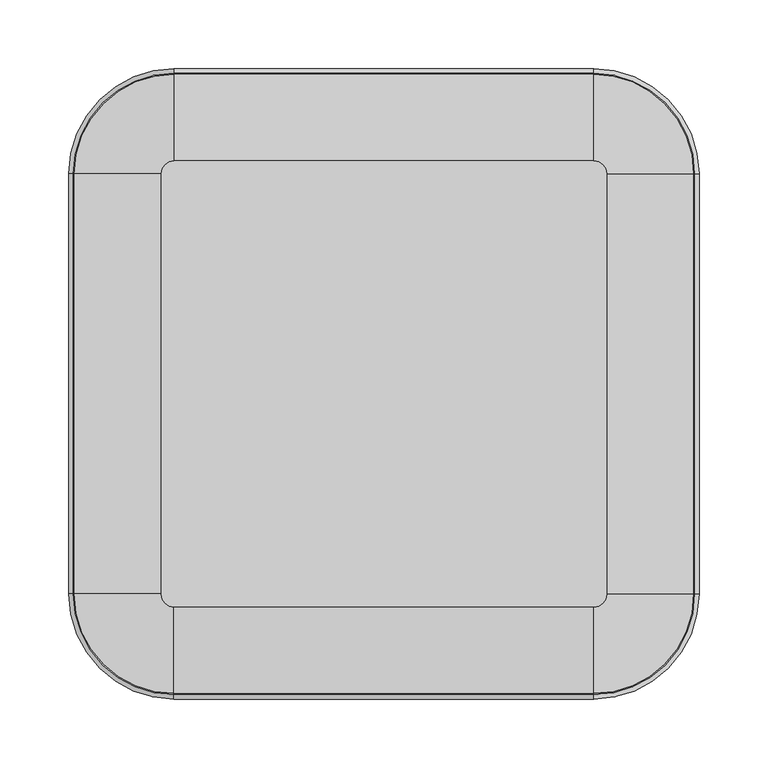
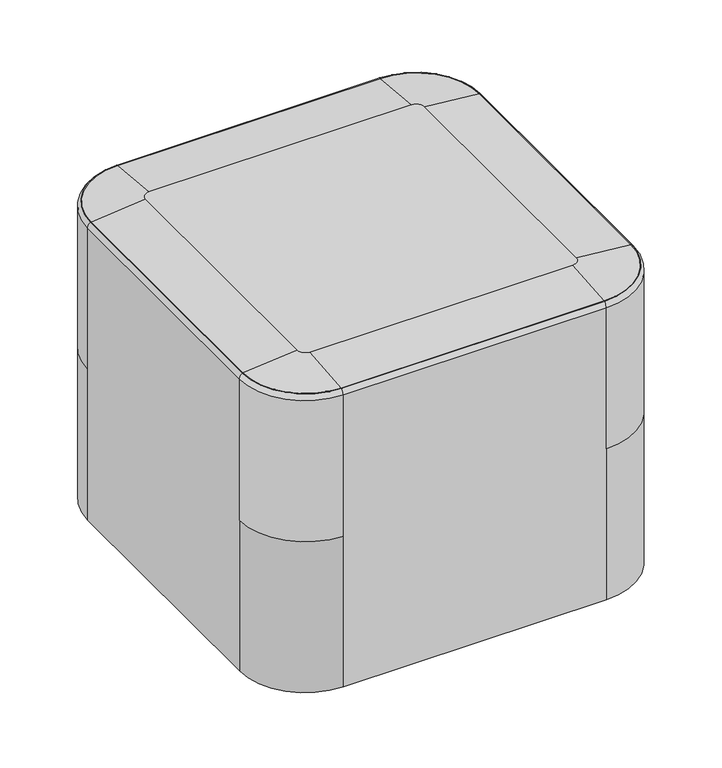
"""IFC4 building model written with IfcOpenShell, lengths in millimetres: furniture geometry, Indiana-Otty-Ottoman_Square : 840-1815SO."""

from ifc_helpers import new_model, si_unit, point, frame, origin, place, context, project, spatial, polyline, circle_curve, ellipse_curve, trimmed, source, transform, mapped, element, save
from ifc_brep_helpers import plane_surface, cylinder_surface, revolved_surface, advanced_brep


def furniture_ce7c7004(model_context):
    return source(origin(), model_context, "Body", "AdvancedBrep", [
        advanced_brep(
        [(174.625, -174.625, 19.8875), (174.625, -197.125, 19.8875), (174.625, -152.125, 19.8875), (174.625, -196.6765082, 4.2458827), (174.625, -152.5734918, 4.2458827), (174.625, -192.1913665, -0.1125), (174.625, -157.0586335, -0.1125), (174.625, -184.8926178, -0.1125), (174.625, -164.3573822, -0.1125), (174.625, -180.9981417, 3.9179615), (174.625, -168.2518583, 3.9179615), (174.625, -174.625, 3.9179615)],
        [
            (0, 1),
            (1, 2, circle_curve(frame((174.625, -174.625, 19.8875), z_axis=(0.0, 0.0, 1.0), x_axis=(0.0, -1.0, 0.0)), 22.5)),
            (2, 0),
            (2, 1, circle_curve(frame((174.625, -174.625, 19.8875), z_axis=(0.0, 0.0, 1.0), x_axis=(0.0, -1.0, 0.0)), 22.5)),
            (1, 3),
            (3, 4, circle_curve(frame((174.625, -174.625, 4.2458827), z_axis=(0.0, 0.0, 1.0), x_axis=(0.0, -1.0, 0.0)), 22.0515082)),
            (4, 2),
            (4, 3, circle_curve(frame((174.625, -174.625, 4.2458827), z_axis=(0.0, 0.0, 1.0), x_axis=(0.0, -1.0, 0.0)), 22.0515082)),
            (3, 5, circle_curve(frame((174.625, -192.1913665, 4.3744851), z_axis=(1.0, 0.0, 0.0), x_axis=(0.0, 1.0, 0.0)), 4.4869851)),
            (5, 6, circle_curve(frame((174.625, -174.625, -0.1125), z_axis=(0.0, 0.0, 1.0), x_axis=(0.0, -1.0, 0.0)), 17.5663665)),
            (6, 4, circle_curve(frame((174.625, -157.0586335, 4.3744851), z_axis=(1.0, 0.0, 0.0), x_axis=(0.0, -1.0, 0.0)), 4.4869851)),
            (6, 5, circle_curve(frame((174.625, -174.625, -0.1125), z_axis=(0.0, 0.0, 1.0), x_axis=(0.0, -1.0, 0.0)), 17.5663665)),
            (5, 7),
            (7, 8, circle_curve(frame((174.625, -174.625, -0.1125), z_axis=(0.0, 0.0, 1.0), x_axis=(0.0, -1.0, 0.0)), 10.2676178)),
            (8, 6),
            (8, 7, circle_curve(frame((174.625, -174.625, -0.1125), z_axis=(0.0, 0.0, 1.0), x_axis=(0.0, -1.0, 0.0)), 10.2676178)),
            (7, 9, circle_curve(frame((174.625, -184.8926178, 3.7842702), z_axis=(1.0, 0.0, 0.0), x_axis=(0.0, 1.0, 0.0)), 3.8967702)),
            (9, 10, circle_curve(frame((174.625, -174.625, 3.9179615), z_axis=(0.0, 0.0, 1.0), x_axis=(0.0, -1.0, 0.0)), 6.3731417)),
            (10, 8, circle_curve(frame((174.625, -164.3573822, 3.7842702), z_axis=(1.0, 0.0, 0.0), x_axis=(0.0, -1.0, 0.0)), 3.8967702)),
            (10, 9, circle_curve(frame((174.625, -174.625, 3.9179615), z_axis=(0.0, 0.0, 1.0), x_axis=(0.0, -1.0, 0.0)), 6.3731417)),
            (9, 11),
            (11, 10),
        ],
        [
            plane_surface(frame((174.625, -174.625, 19.8875), z_axis=(0.0, 0.0, 1.0), x_axis=(0.0, -1.0, 0.0))),
            revolved_surface(polyline([(174.625, -196.6765082, 4.2458827), (174.625, -197.125, 19.8875)]), (174.625, -174.625, 31.0803862), (0.0, 0.0, 1.0)),
            revolved_surface(trimmed(ellipse_curve(frame((174.625, -192.1913665, 4.3744851), z_axis=(-1.0, 0.0, 0.0), x_axis=(0.0, 1.0, 0.0)), 4.4869851, 4.4869851), [point((174.625, -192.1913665, -0.1125))], [point((174.625, -196.6765082, 4.2458827))], True, "CARTESIAN"), (174.625, -174.625, 31.0803862), (0.0, 0.0, 1.0)),
            plane_surface(frame((174.625, -174.625, -0.1125), z_axis=(0.0, 0.0, -1.0), x_axis=(0.0, -1.0, 0.0))),
            revolved_surface(trimmed(ellipse_curve(frame((174.625, -184.8926178, 3.7842702), z_axis=(-1.0, 0.0, 0.0), x_axis=(0.0, 1.0, 0.0)), 3.8967702, 3.8967702), [point((174.625, -180.9981417, 3.9179615))], [point((174.625, -184.8926178, -0.1125))], True, "CARTESIAN"), (174.625, -174.625, 31.0803862), (0.0, 0.0, 1.0)),
            plane_surface(frame((174.625, -174.625, 3.9179615), z_axis=(0.0, 0.0, -1.0), x_axis=(0.0, -1.0, 0.0))),
        ],
        [
            (0, [[1, 2, 3]]),
            (0, [[-3, 4, -1]]),
            (1, [[-2, 5, 6, 7]]),
            (1, [[-4, -7, 8, -5]]),
            (2, [[-6, 9, 10, 11]]),
            (2, [[-8, -11, 12, -9]]),
            (3, [[-10, 13, 14, 15]]),
            (3, [[-12, -15, 16, -13]]),
            (4, [[-14, 17, 18, 19]]),
            (4, [[-16, -19, 20, -17]]),
            (5, [[-18, 21, 22]]),
            (5, [[-20, -22, -21]]),
        ],
    ),
        advanced_brep(
        [(174.625, 174.625, 19.8875), (174.625, 152.125, 19.8875), (174.625, 197.125, 19.8875), (174.625, 152.5734918, 4.2458827), (174.625, 196.6765082, 4.2458827), (174.625, 157.0586335, -0.1125), (174.625, 192.1913665, -0.1125), (174.625, 164.3573822, -0.1125), (174.625, 184.8926178, -0.1125), (174.625, 168.2518583, 3.9179615), (174.625, 180.9981417, 3.9179615), (174.625, 174.625, 3.9179615)],
        [
            (0, 1),
            (1, 2, circle_curve(frame((174.625, 174.625, 19.8875), z_axis=(0.0, 0.0, 1.0), x_axis=(0.0, -1.0, 0.0)), 22.5)),
            (2, 0),
            (2, 1, circle_curve(frame((174.625, 174.625, 19.8875), z_axis=(0.0, 0.0, 1.0), x_axis=(0.0, -1.0, 0.0)), 22.5)),
            (1, 3),
            (3, 4, circle_curve(frame((174.625, 174.625, 4.2458827), z_axis=(0.0, 0.0, 1.0), x_axis=(0.0, -1.0, 0.0)), 22.0515082)),
            (4, 2),
            (4, 3, circle_curve(frame((174.625, 174.625, 4.2458827), z_axis=(0.0, 0.0, 1.0), x_axis=(0.0, -1.0, 0.0)), 22.0515082)),
            (3, 5, circle_curve(frame((174.625, 157.0586335, 4.3744851), z_axis=(1.0, 0.0, 0.0), x_axis=(0.0, 1.0, 0.0)), 4.4869851)),
            (5, 6, circle_curve(frame((174.625, 174.625, -0.1125), z_axis=(0.0, 0.0, 1.0), x_axis=(0.0, -1.0, 0.0)), 17.5663665)),
            (6, 4, circle_curve(frame((174.625, 192.1913665, 4.3744851), z_axis=(1.0, 0.0, 0.0), x_axis=(0.0, -1.0, 0.0)), 4.4869851)),
            (6, 5, circle_curve(frame((174.625, 174.625, -0.1125), z_axis=(0.0, 0.0, 1.0), x_axis=(0.0, -1.0, 0.0)), 17.5663665)),
            (5, 7),
            (7, 8, circle_curve(frame((174.625, 174.625, -0.1125), z_axis=(0.0, 0.0, 1.0), x_axis=(0.0, -1.0, 0.0)), 10.2676178)),
            (8, 6),
            (8, 7, circle_curve(frame((174.625, 174.625, -0.1125), z_axis=(0.0, 0.0, 1.0), x_axis=(0.0, -1.0, 0.0)), 10.2676178)),
            (7, 9, circle_curve(frame((174.625, 164.3573822, 3.7842702), z_axis=(1.0, 0.0, 0.0), x_axis=(0.0, 1.0, 0.0)), 3.8967702)),
            (9, 10, circle_curve(frame((174.625, 174.625, 3.9179615), z_axis=(0.0, 0.0, 1.0), x_axis=(0.0, -1.0, 0.0)), 6.3731417)),
            (10, 8, circle_curve(frame((174.625, 184.8926178, 3.7842702), z_axis=(1.0, 0.0, 0.0), x_axis=(0.0, -1.0, 0.0)), 3.8967702)),
            (10, 9, circle_curve(frame((174.625, 174.625, 3.9179615), z_axis=(0.0, 0.0, 1.0), x_axis=(0.0, -1.0, 0.0)), 6.3731417)),
            (9, 11),
            (11, 10),
        ],
        [
            plane_surface(frame((174.625, 174.625, 19.8875), z_axis=(0.0, 0.0, 1.0), x_axis=(0.0, -1.0, 0.0))),
            revolved_surface(polyline([(174.625, 152.5734918, 4.2458827), (174.625, 152.125, 19.8875)]), (174.625, 174.625, 31.0803862), (0.0, 0.0, 1.0)),
            revolved_surface(trimmed(ellipse_curve(frame((174.625, 157.0586335, 4.3744851), z_axis=(-1.0, 0.0, 0.0), x_axis=(0.0, 1.0, 0.0)), 4.4869851, 4.4869851), [point((174.625, 157.0586335, -0.1125))], [point((174.625, 152.5734918, 4.2458827))], True, "CARTESIAN"), (174.625, 174.625, 31.0803862), (0.0, 0.0, 1.0)),
            plane_surface(frame((174.625, 174.625, -0.1125), z_axis=(0.0, 0.0, -1.0), x_axis=(0.0, -1.0, 0.0))),
            revolved_surface(trimmed(ellipse_curve(frame((174.625, 164.3573822, 3.7842702), z_axis=(-1.0, 0.0, 0.0), x_axis=(0.0, 1.0, 0.0)), 3.8967702, 3.8967702), [point((174.625, 168.2518583, 3.9179615))], [point((174.625, 164.3573822, -0.1125))], True, "CARTESIAN"), (174.625, 174.625, 31.0803862), (0.0, 0.0, 1.0)),
            plane_surface(frame((174.625, 174.625, 3.9179615), z_axis=(0.0, 0.0, -1.0), x_axis=(0.0, -1.0, 0.0))),
        ],
        [
            (0, [[1, 2, 3]]),
            (0, [[-3, 4, -1]]),
            (1, [[-2, 5, 6, 7]]),
            (1, [[-4, -7, 8, -5]]),
            (2, [[-6, 9, 10, 11]]),
            (2, [[-8, -11, 12, -9]]),
            (3, [[-10, 13, 14, 15]]),
            (3, [[-12, -15, 16, -13]]),
            (4, [[-14, 17, 18, 19]]),
            (4, [[-16, -19, 20, -17]]),
            (5, [[-18, 21, 22]]),
            (5, [[-20, -22, -21]]),
        ],
    ),
        advanced_brep(
        [(-174.625, -174.625, 19.8875), (-174.625, -197.125, 19.8875), (-174.625, -152.125, 19.8875), (-174.625, -196.6765082, 4.2458827), (-174.625, -152.5734918, 4.2458827), (-174.625, -192.1913665, -0.1125), (-174.625, -157.0586335, -0.1125), (-174.625, -184.8926178, -0.1125), (-174.625, -164.3573822, -0.1125), (-174.625, -180.9981417, 3.9179615), (-174.625, -168.2518583, 3.9179615), (-174.625, -174.625, 3.9179615)],
        [
            (0, 1),
            (1, 2, circle_curve(frame((-174.625, -174.625, 19.8875), z_axis=(0.0, 0.0, 1.0), x_axis=(0.0, -1.0, 0.0)), 22.5)),
            (2, 0),
            (2, 1, circle_curve(frame((-174.625, -174.625, 19.8875), z_axis=(0.0, 0.0, 1.0), x_axis=(0.0, -1.0, 0.0)), 22.5)),
            (1, 3),
            (3, 4, circle_curve(frame((-174.625, -174.625, 4.2458827), z_axis=(0.0, 0.0, 1.0), x_axis=(0.0, -1.0, 0.0)), 22.0515082)),
            (4, 2),
            (4, 3, circle_curve(frame((-174.625, -174.625, 4.2458827), z_axis=(0.0, 0.0, 1.0), x_axis=(0.0, -1.0, 0.0)), 22.0515082)),
            (3, 5, circle_curve(frame((-174.625, -192.1913665, 4.3744851), z_axis=(1.0, 0.0, 0.0), x_axis=(0.0, 1.0, 0.0)), 4.4869851)),
            (5, 6, circle_curve(frame((-174.625, -174.625, -0.1125), z_axis=(0.0, 0.0, 1.0), x_axis=(0.0, -1.0, 0.0)), 17.5663665)),
            (6, 4, circle_curve(frame((-174.625, -157.0586335, 4.3744851), z_axis=(1.0, 0.0, 0.0), x_axis=(0.0, -1.0, 0.0)), 4.4869851)),
            (6, 5, circle_curve(frame((-174.625, -174.625, -0.1125), z_axis=(0.0, 0.0, 1.0), x_axis=(0.0, -1.0, 0.0)), 17.5663665)),
            (5, 7),
            (7, 8, circle_curve(frame((-174.625, -174.625, -0.1125), z_axis=(0.0, 0.0, 1.0), x_axis=(0.0, -1.0, 0.0)), 10.2676178)),
            (8, 6),
            (8, 7, circle_curve(frame((-174.625, -174.625, -0.1125), z_axis=(0.0, 0.0, 1.0), x_axis=(0.0, -1.0, 0.0)), 10.2676178)),
            (7, 9, circle_curve(frame((-174.625, -184.8926178, 3.7842702), z_axis=(1.0, 0.0, 0.0), x_axis=(0.0, 1.0, 0.0)), 3.8967702)),
            (9, 10, circle_curve(frame((-174.625, -174.625, 3.9179615), z_axis=(0.0, 0.0, 1.0), x_axis=(0.0, -1.0, 0.0)), 6.3731417)),
            (10, 8, circle_curve(frame((-174.625, -164.3573822, 3.7842702), z_axis=(1.0, 0.0, 0.0), x_axis=(0.0, -1.0, 0.0)), 3.8967702)),
            (10, 9, circle_curve(frame((-174.625, -174.625, 3.9179615), z_axis=(0.0, 0.0, 1.0), x_axis=(0.0, -1.0, 0.0)), 6.3731417)),
            (9, 11),
            (11, 10),
        ],
        [
            plane_surface(frame((-174.625, -174.625, 19.8875), z_axis=(0.0, 0.0, 1.0), x_axis=(0.0, -1.0, 0.0))),
            revolved_surface(polyline([(-174.625, -196.6765082, 4.2458827), (-174.625, -197.125, 19.8875)]), (-174.625, -174.625, 31.0803862), (0.0, 0.0, 1.0)),
            revolved_surface(trimmed(ellipse_curve(frame((-174.625, -192.1913665, 4.3744851), z_axis=(-1.0, 0.0, 0.0), x_axis=(0.0, 1.0, 0.0)), 4.4869851, 4.4869851), [point((-174.625, -192.1913665, -0.1125))], [point((-174.625, -196.6765082, 4.2458827))], True, "CARTESIAN"), (-174.625, -174.625, 31.0803862), (0.0, 0.0, 1.0)),
            plane_surface(frame((-174.625, -174.625, -0.1125), z_axis=(0.0, 0.0, -1.0), x_axis=(0.0, -1.0, 0.0))),
            revolved_surface(trimmed(ellipse_curve(frame((-174.625, -184.8926178, 3.7842702), z_axis=(-1.0, 0.0, 0.0), x_axis=(0.0, 1.0, 0.0)), 3.8967702, 3.8967702), [point((-174.625, -180.9981417, 3.9179615))], [point((-174.625, -184.8926178, -0.1125))], True, "CARTESIAN"), (-174.625, -174.625, 31.0803862), (0.0, 0.0, 1.0)),
            plane_surface(frame((-174.625, -174.625, 3.9179615), z_axis=(0.0, 0.0, -1.0), x_axis=(0.0, -1.0, 0.0))),
        ],
        [
            (0, [[1, 2, 3]]),
            (0, [[-3, 4, -1]]),
            (1, [[-2, 5, 6, 7]]),
            (1, [[-4, -7, 8, -5]]),
            (2, [[-6, 9, 10, 11]]),
            (2, [[-8, -11, 12, -9]]),
            (3, [[-10, 13, 14, 15]]),
            (3, [[-12, -15, 16, -13]]),
            (4, [[-14, 17, 18, 19]]),
            (4, [[-16, -19, 20, -17]]),
            (5, [[-18, 21, 22]]),
            (5, [[-20, -22, -21]]),
        ],
    ),
        advanced_brep(
        [(-174.625, 174.625, 19.8875), (-174.625, 152.125, 19.8875), (-174.625, 197.125, 19.8875), (-174.625, 152.5734918, 4.2458827), (-174.625, 196.6765082, 4.2458827), (-174.625, 157.0586335, -0.1125), (-174.625, 192.1913665, -0.1125), (-174.625, 164.3573822, -0.1125), (-174.625, 184.8926178, -0.1125), (-174.625, 168.2518583, 3.9179615), (-174.625, 180.9981417, 3.9179615), (-174.625, 174.625, 3.9179615)],
        [
            (0, 1),
            (1, 2, circle_curve(frame((-174.625, 174.625, 19.8875), z_axis=(0.0, 0.0, 1.0), x_axis=(0.0, -1.0, 0.0)), 22.5)),
            (2, 0),
            (2, 1, circle_curve(frame((-174.625, 174.625, 19.8875), z_axis=(0.0, 0.0, 1.0), x_axis=(0.0, -1.0, 0.0)), 22.5)),
            (1, 3),
            (3, 4, circle_curve(frame((-174.625, 174.625, 4.2458827), z_axis=(0.0, 0.0, 1.0), x_axis=(0.0, -1.0, 0.0)), 22.0515082)),
            (4, 2),
            (4, 3, circle_curve(frame((-174.625, 174.625, 4.2458827), z_axis=(0.0, 0.0, 1.0), x_axis=(0.0, -1.0, 0.0)), 22.0515082)),
            (3, 5, circle_curve(frame((-174.625, 157.0586335, 4.3744851), z_axis=(1.0, 0.0, 0.0), x_axis=(0.0, 1.0, 0.0)), 4.4869851)),
            (5, 6, circle_curve(frame((-174.625, 174.625, -0.1125), z_axis=(0.0, 0.0, 1.0), x_axis=(0.0, -1.0, 0.0)), 17.5663665)),
            (6, 4, circle_curve(frame((-174.625, 192.1913665, 4.3744851), z_axis=(1.0, 0.0, 0.0), x_axis=(0.0, -1.0, 0.0)), 4.4869851)),
            (6, 5, circle_curve(frame((-174.625, 174.625, -0.1125), z_axis=(0.0, 0.0, 1.0), x_axis=(0.0, -1.0, 0.0)), 17.5663665)),
            (5, 7),
            (7, 8, circle_curve(frame((-174.625, 174.625, -0.1125), z_axis=(0.0, 0.0, 1.0), x_axis=(0.0, -1.0, 0.0)), 10.2676178)),
            (8, 6),
            (8, 7, circle_curve(frame((-174.625, 174.625, -0.1125), z_axis=(0.0, 0.0, 1.0), x_axis=(0.0, -1.0, 0.0)), 10.2676178)),
            (7, 9, circle_curve(frame((-174.625, 164.3573822, 3.7842702), z_axis=(1.0, 0.0, 0.0), x_axis=(0.0, 1.0, 0.0)), 3.8967702)),
            (9, 10, circle_curve(frame((-174.625, 174.625, 3.9179615), z_axis=(0.0, 0.0, 1.0), x_axis=(0.0, -1.0, 0.0)), 6.3731417)),
            (10, 8, circle_curve(frame((-174.625, 184.8926178, 3.7842702), z_axis=(1.0, 0.0, 0.0), x_axis=(0.0, -1.0, 0.0)), 3.8967702)),
            (10, 9, circle_curve(frame((-174.625, 174.625, 3.9179615), z_axis=(0.0, 0.0, 1.0), x_axis=(0.0, -1.0, 0.0)), 6.3731417)),
            (9, 11),
            (11, 10),
        ],
        [
            plane_surface(frame((-174.625, 174.625, 19.8875), z_axis=(0.0, 0.0, 1.0), x_axis=(0.0, -1.0, 0.0))),
            revolved_surface(polyline([(-174.625, 152.5734918, 4.2458827), (-174.625, 152.125, 19.8875)]), (-174.625, 174.625, 31.0803862), (0.0, 0.0, 1.0)),
            revolved_surface(trimmed(ellipse_curve(frame((-174.625, 157.0586335, 4.3744851), z_axis=(-1.0, 0.0, 0.0), x_axis=(0.0, 1.0, 0.0)), 4.4869851, 4.4869851), [point((-174.625, 157.0586335, -0.1125))], [point((-174.625, 152.5734918, 4.2458827))], True, "CARTESIAN"), (-174.625, 174.625, 31.0803862), (0.0, 0.0, 1.0)),
            plane_surface(frame((-174.625, 174.625, -0.1125), z_axis=(0.0, 0.0, -1.0), x_axis=(0.0, -1.0, 0.0))),
            revolved_surface(trimmed(ellipse_curve(frame((-174.625, 164.3573822, 3.7842702), z_axis=(-1.0, 0.0, 0.0), x_axis=(0.0, 1.0, 0.0)), 3.8967702, 3.8967702), [point((-174.625, 168.2518583, 3.9179615))], [point((-174.625, 164.3573822, -0.1125))], True, "CARTESIAN"), (-174.625, 174.625, 31.0803862), (0.0, 0.0, 1.0)),
            plane_surface(frame((-174.625, 174.625, 3.9179615), z_axis=(0.0, 0.0, -1.0), x_axis=(0.0, -1.0, 0.0))),
        ],
        [
            (0, [[1, 2, 3]]),
            (0, [[-3, 4, -1]]),
            (1, [[-2, 5, 6, 7]]),
            (1, [[-4, -7, 8, -5]]),
            (2, [[-6, 9, 10, 11]]),
            (2, [[-8, -11, 12, -9]]),
            (3, [[-10, 13, 14, 15]]),
            (3, [[-12, -15, 16, -13]]),
            (4, [[-14, 17, 18, 19]]),
            (4, [[-16, -19, 20, -17]]),
            (5, [[-18, 21, 22]]),
            (5, [[-20, -22, -21]]),
        ],
    ),
        advanced_brep(
        [(224.6, 152.4, 374.9999966), (152.4, 224.6, 374.9999966), (152.4, 161.925, 381.0), (161.925, 152.4, 381.0), (225.3317905, 152.4, 375.2073863), (152.4, 225.3317905, 375.2073863), (228.6, 152.4, 369.0), (152.4, 228.6, 369.0), (228.6, 152.4, 196.25), (152.4, 228.6, 196.25), (161.925, -152.4, 381.0), (224.6, -152.4, 374.9999966), (225.3317905, -152.4, 375.2073863), (228.6, -152.4, 369.0), (228.6, -152.4, 196.25), (228.6, -152.4, 11.5), (228.6, 152.4, 11.5), (152.4, -161.925, 381.0), (152.4, -224.6, 374.9999966), (152.4, -225.3317905, 375.2073863), (152.4, -228.6, 369.0), (152.4, -228.6, 196.25), (-152.4, -161.925, 381.0), (-152.4, -224.6, 374.9999966), (-152.4, -225.3317905, 375.2073863), (-152.4, -228.6, 369.0), (-152.4, -228.6, 196.25), (-152.4, -228.6, 11.5), (152.4, -228.6, 11.5), (-161.925, -152.4, 381.0), (-224.6, -152.4, 374.9999966), (-225.3317905, -152.4, 375.2073863), (-228.6, -152.4, 369.0), (-228.6, -152.4, 196.25), (-161.925, 152.4, 381.0), (-224.6, 152.4, 374.9999966), (-225.3317905, 152.4, 375.2073863), (-228.6, 152.4, 369.0), (-228.6, 152.4, 196.25), (-228.6, 152.4, 11.5), (-228.6, -152.4, 11.5), (-152.4, 161.925, 381.0), (-152.4, 224.6, 374.9999966), (-152.4, 225.3317905, 375.2073863), (-152.4, 228.6, 369.0), (-152.4, 228.6, 196.25), (152.4, 228.6, 11.5), (-152.4, 228.6, 11.5), (-197.64375, -174.625, 11.5), (-151.60625, -174.625, 11.5), (-197.64375, 174.625, 11.5), (-151.60625, 174.625, 11.5), (151.60625, 174.625, 11.5), (197.64375, 174.625, 11.5), (151.60625, -174.625, 11.5), (197.64375, -174.625, 11.5), (-0.396875, 174.625, 11.5), (0.396875, 174.625, 11.5), (-0.396875, -174.625, 11.5), (0.396875, -174.625, 11.5), (-151.60625, -174.625, 19.834375), (-197.64375, -174.625, 19.834375), (-151.60625, 174.625, 19.834375), (-197.64375, 174.625, 19.834375), (151.60625, 174.625, 19.834375), (197.64375, 174.625, 19.834375), (151.60625, -174.625, 19.834375), (197.64375, -174.625, 19.834375), (-0.396875, 174.625, 11.896875), (0.396875, 174.625, 11.896875), (-0.396875, -174.625, 11.896875), (0.396875, -174.625, 11.896875)],
        [
            (0, 1, circle_curve(frame((152.4, 152.4, 374.9999966), z_axis=(0.0, 0.0, 1.0), x_axis=(0.0, 1.0, 0.0)), 72.2)),
            (1, 2, circle_curve(frame((152.4, 161.925, 50.6538794), z_axis=(1.0, 0.0, 0.0), x_axis=(0.0, 1.0, 0.0)), 330.3461206)),
            (2, 3, circle_curve(frame((152.4, 152.4, 381.0), z_axis=(0.0, 0.0, -1.0), x_axis=(0.0, 1.0, 0.0)), 9.525)),
            (3, 0, circle_curve(frame((161.925, 152.4, 50.6538794), z_axis=(0.0, 1.0, 0.0), x_axis=(1.0, 0.0, 0.0)), 330.3461206)),
            (0, 4, circle_curve(frame((225.0520185, 152.4, 374.799799), z_axis=(0.0, 1.0, 0.0), x_axis=(1.0, 0.0, 0.0)), 0.4943681)),
            (4, 5, circle_curve(frame((152.4, 152.4, 375.2073863), z_axis=(0.0, 0.0, 1.0), x_axis=(0.0, 1.0, 0.0)), 72.9317905)),
            (5, 1, circle_curve(frame((152.4, 225.0520185, 374.799799), z_axis=(1.0, 0.0, 0.0), x_axis=(0.0, 1.0, 0.0)), 0.4943681)),
            (4, 6, circle_curve(frame((221.0709786, 152.4, 369.0), z_axis=(0.0, 1.0, 0.0), x_axis=(1.0, 0.0, 0.0)), 7.5290214)),
            (6, 7, circle_curve(frame((152.4, 152.4, 369.0), z_axis=(0.0, 0.0, 1.0), x_axis=(0.0, 1.0, 0.0)), 76.2)),
            (7, 5, circle_curve(frame((152.4, 221.0709786, 369.0), z_axis=(1.0, 0.0, 0.0), x_axis=(0.0, 1.0, 0.0)), 7.5290214)),
            (6, 8),
            (8, 9, circle_curve(frame((152.4, 152.4, 196.25), z_axis=(0.0, 0.0, 1.0), x_axis=(0.0, 1.0, 0.0)), 76.2)),
            (9, 7),
            (3, 10),
            (10, 11, circle_curve(frame((161.925, -152.4, 50.6538794), z_axis=(0.0, 1.0, 0.0), x_axis=(1.0, 0.0, 0.0)), 330.3461206)),
            (11, 0),
            (11, 12, circle_curve(frame((225.0520185, -152.4, 374.799799), z_axis=(0.0, 1.0, 0.0), x_axis=(1.0, 0.0, 0.0)), 0.4943681)),
            (12, 4),
            (12, 13, circle_curve(frame((221.0709786, -152.4, 369.0), z_axis=(0.0, 1.0, 0.0), x_axis=(1.0, 0.0, 0.0)), 7.5290214)),
            (13, 6),
            (13, 14),
            (14, 15),
            (15, 16),
            (16, 8),
            (10, 17, circle_curve(frame((152.4, -152.4, 381.0), z_axis=(0.0, 0.0, -1.0), x_axis=(1.0, 0.0, 0.0)), 9.525)),
            (17, 18, circle_curve(frame((152.4, -161.925, 50.6538794), z_axis=(1.0, 0.0, 0.0), x_axis=(0.0, -1.0, 0.0)), 330.3461206)),
            (18, 11, circle_curve(frame((152.4, -152.4, 374.9999966), z_axis=(0.0, 0.0, 1.0), x_axis=(1.0, 0.0, 0.0)), 72.2)),
            (18, 19, circle_curve(frame((152.4, -225.0520185, 374.799799), z_axis=(1.0, 0.0, 0.0), x_axis=(0.0, -1.0, 0.0)), 0.4943681)),
            (19, 12, circle_curve(frame((152.4, -152.4, 375.2073863), z_axis=(0.0, 0.0, 1.0), x_axis=(1.0, 0.0, 0.0)), 72.9317905)),
            (19, 20, circle_curve(frame((152.4, -221.0709786, 369.0), z_axis=(1.0, 0.0, 0.0), x_axis=(0.0, -1.0, 0.0)), 7.5290214)),
            (20, 13, circle_curve(frame((152.4, -152.4, 369.0), z_axis=(0.0, 0.0, 1.0), x_axis=(1.0, 0.0, 0.0)), 76.2)),
            (20, 21),
            (21, 14, circle_curve(frame((152.4, -152.4, 196.25), z_axis=(0.0, 0.0, 1.0), x_axis=(1.0, 0.0, 0.0)), 76.2)),
            (17, 22),
            (22, 23, circle_curve(frame((-152.4, -161.925, 50.6538794), z_axis=(1.0, 0.0, 0.0), x_axis=(0.0, -1.0, 0.0)), 330.3461206)),
            (23, 18),
            (23, 24, circle_curve(frame((-152.4, -225.0520185, 374.799799), z_axis=(1.0, 0.0, 0.0), x_axis=(0.0, -1.0, 0.0)), 0.4943681)),
            (24, 19),
            (24, 25, circle_curve(frame((-152.4, -221.0709786, 369.0), z_axis=(1.0, 0.0, 0.0), x_axis=(0.0, -1.0, 0.0)), 7.5290214)),
            (25, 20),
            (25, 26),
            (26, 27),
            (27, 28),
            (28, 21),
            (22, 29, circle_curve(frame((-152.4, -152.4, 381.0), z_axis=(0.0, 0.0, -1.0), x_axis=(0.0, -1.0, 0.0)), 9.525)),
            (29, 30, circle_curve(frame((-161.925, -152.4, 50.6538794), z_axis=(0.0, -1.0, 0.0), x_axis=(-1.0, 0.0, 0.0)), 330.3461206)),
            (30, 23, circle_curve(frame((-152.4, -152.4, 374.9999966), z_axis=(0.0, 0.0, 1.0), x_axis=(0.0, -1.0, 0.0)), 72.2)),
            (30, 31, circle_curve(frame((-225.0520185, -152.4, 374.799799), z_axis=(0.0, -1.0, 0.0), x_axis=(-1.0, 0.0, 0.0)), 0.4943681)),
            (31, 24, circle_curve(frame((-152.4, -152.4, 375.2073863), z_axis=(0.0, 0.0, 1.0), x_axis=(0.0, -1.0, 0.0)), 72.9317905)),
            (31, 32, circle_curve(frame((-221.0709786, -152.4, 369.0), z_axis=(0.0, -1.0, 0.0), x_axis=(-1.0, 0.0, 0.0)), 7.5290214)),
            (32, 25, circle_curve(frame((-152.4, -152.4, 369.0), z_axis=(0.0, 0.0, 1.0), x_axis=(0.0, -1.0, 0.0)), 76.2)),
            (32, 33),
            (33, 26, circle_curve(frame((-152.4, -152.4, 196.25), z_axis=(0.0, 0.0, 1.0), x_axis=(0.0, -1.0, 0.0)), 76.2)),
            (29, 34),
            (34, 35, circle_curve(frame((-161.925, 152.4, 50.6538794), z_axis=(0.0, -1.0, 0.0), x_axis=(-1.0, 0.0, 0.0)), 330.3461206)),
            (35, 30),
            (35, 36, circle_curve(frame((-225.0520185, 152.4, 374.799799), z_axis=(0.0, -1.0, 0.0), x_axis=(-1.0, 0.0, 0.0)), 0.4943681)),
            (36, 31),
            (36, 37, circle_curve(frame((-221.0709786, 152.4, 369.0), z_axis=(0.0, -1.0, 0.0), x_axis=(-1.0, 0.0, 0.0)), 7.5290214)),
            (37, 32),
            (37, 38),
            (38, 39),
            (39, 40),
            (40, 33),
            (34, 41, circle_curve(frame((-152.4, 152.4, 381.0), z_axis=(0.0, 0.0, -1.0), x_axis=(-1.0, 0.0, 0.0)), 9.525)),
            (41, 42, circle_curve(frame((-152.4, 161.925, 50.6538794), z_axis=(-1.0, 0.0, 0.0), x_axis=(0.0, 1.0, 0.0)), 330.3461206)),
            (42, 35, circle_curve(frame((-152.4, 152.4, 374.9999966), z_axis=(0.0, 0.0, 1.0), x_axis=(-1.0, 0.0, 0.0)), 72.2)),
            (42, 43, circle_curve(frame((-152.4, 225.0520185, 374.799799), z_axis=(-1.0, 0.0, 0.0), x_axis=(0.0, 1.0, 0.0)), 0.4943681)),
            (43, 36, circle_curve(frame((-152.4, 152.4, 375.2073863), z_axis=(0.0, 0.0, 1.0), x_axis=(-1.0, 0.0, 0.0)), 72.9317905)),
            (43, 44, circle_curve(frame((-152.4, 221.0709786, 369.0), z_axis=(-1.0, 0.0, 0.0), x_axis=(0.0, 1.0, 0.0)), 7.5290214)),
            (44, 37, circle_curve(frame((-152.4, 152.4, 369.0), z_axis=(0.0, 0.0, 1.0), x_axis=(-1.0, 0.0, 0.0)), 76.2)),
            (44, 45),
            (45, 38, circle_curve(frame((-152.4, 152.4, 196.25), z_axis=(0.0, 0.0, 1.0), x_axis=(-1.0, 0.0, 0.0)), 76.2)),
            (2, 41),
            (1, 42),
            (5, 43),
            (7, 44),
            (9, 46),
            (46, 47),
            (47, 45),
            (46, 16, circle_curve(frame((152.4, 152.4, 11.5), z_axis=(0.0, 0.0, -1.0), x_axis=(1.0, 0.0, 0.0)), 76.2)),
            (15, 28, circle_curve(frame((152.4, -152.4, 11.5), z_axis=(0.0, 0.0, -1.0), x_axis=(1.0, 0.0, 0.0)), 76.2)),
            (27, 40, circle_curve(frame((-152.4, -152.4, 11.5), z_axis=(0.0, 0.0, -1.0), x_axis=(1.0, 0.0, 0.0)), 76.2)),
            (39, 47, circle_curve(frame((-152.4, 152.4, 11.5), z_axis=(0.0, 0.0, -1.0), x_axis=(1.0, 0.0, 0.0)), 76.2)),
            (48, 49, circle_curve(frame((-174.625, -174.625, 11.5), z_axis=(0.0, 0.0, 1.0), x_axis=(-1.0, 0.0, 0.0)), 23.01875)),
            (49, 48, circle_curve(frame((-174.625, -174.625, 11.5), z_axis=(0.0, 0.0, 1.0), x_axis=(-1.0, 0.0, 0.0)), 23.01875)),
            (50, 51, circle_curve(frame((-174.625, 174.625, 11.5), z_axis=(0.0, 0.0, 1.0), x_axis=(-1.0, 0.0, 0.0)), 23.01875)),
            (51, 50, circle_curve(frame((-174.625, 174.625, 11.5), z_axis=(0.0, 0.0, 1.0), x_axis=(-1.0, 0.0, 0.0)), 23.01875)),
            (52, 53, circle_curve(frame((174.625, 174.625, 11.5), z_axis=(0.0, 0.0, 1.0), x_axis=(-1.0, 0.0, 0.0)), 23.01875)),
            (53, 52, circle_curve(frame((174.625, 174.625, 11.5), z_axis=(0.0, 0.0, 1.0), x_axis=(-1.0, 0.0, 0.0)), 23.01875)),
            (54, 55, circle_curve(frame((174.625, -174.625, 11.5), z_axis=(0.0, 0.0, 1.0), x_axis=(-1.0, 0.0, 0.0)), 23.01875)),
            (55, 54, circle_curve(frame((174.625, -174.625, 11.5), z_axis=(0.0, 0.0, 1.0), x_axis=(-1.0, 0.0, 0.0)), 23.01875)),
            (56, 57, circle_curve(frame((0.0, 174.625, 11.5), z_axis=(0.0, 0.0, 1.0), x_axis=(-1.0, 0.0, 0.0)), 0.396875)),
            (57, 56, circle_curve(frame((0.0, 174.625, 11.5), z_axis=(0.0, 0.0, 1.0), x_axis=(-1.0, 0.0, 0.0)), 0.396875)),
            (58, 59, circle_curve(frame((0.0, -174.625, 11.5), z_axis=(0.0, 0.0, 1.0), x_axis=(-1.0, 0.0, 0.0)), 0.396875)),
            (59, 58, circle_curve(frame((0.0, -174.625, 11.5), z_axis=(0.0, 0.0, 1.0), x_axis=(-1.0, 0.0, 0.0)), 0.396875)),
            (60, 61, circle_curve(frame((-174.625, -174.625, 19.834375), z_axis=(0.0, 0.0, -1.0), x_axis=(-1.0, 0.0, 0.0)), 23.01875)),
            (61, 60, circle_curve(frame((-174.625, -174.625, 19.834375), z_axis=(0.0, 0.0, -1.0), x_axis=(-1.0, 0.0, 0.0)), 23.01875)),
            (48, 61),
            (60, 49),
            (62, 63, circle_curve(frame((-174.625, 174.625, 19.834375), z_axis=(0.0, 0.0, -1.0), x_axis=(-1.0, 0.0, 0.0)), 23.01875)),
            (63, 62, circle_curve(frame((-174.625, 174.625, 19.834375), z_axis=(0.0, 0.0, -1.0), x_axis=(-1.0, 0.0, 0.0)), 23.01875)),
            (50, 63),
            (62, 51),
            (52, 64),
            (64, 65, circle_curve(frame((174.625, 174.625, 19.834375), z_axis=(0.0, 0.0, 1.0), x_axis=(-1.0, 0.0, 0.0)), 23.01875)),
            (65, 53),
            (65, 64, circle_curve(frame((174.625, 174.625, 19.834375), z_axis=(0.0, 0.0, 1.0), x_axis=(-1.0, 0.0, 0.0)), 23.01875)),
            (54, 66),
            (66, 67, circle_curve(frame((174.625, -174.625, 19.834375), z_axis=(0.0, 0.0, 1.0), x_axis=(-1.0, 0.0, 0.0)), 23.01875)),
            (67, 55),
            (67, 66, circle_curve(frame((174.625, -174.625, 19.834375), z_axis=(0.0, 0.0, 1.0), x_axis=(-1.0, 0.0, 0.0)), 23.01875)),
            (56, 68),
            (68, 69, circle_curve(frame((0.0, 174.625, 11.896875), z_axis=(0.0, 0.0, 1.0), x_axis=(-1.0, 0.0, 0.0)), 0.396875)),
            (69, 57),
            (69, 68, circle_curve(frame((0.0, 174.625, 11.896875), z_axis=(0.0, 0.0, 1.0), x_axis=(-1.0, 0.0, 0.0)), 0.396875)),
            (58, 70),
            (70, 71, circle_curve(frame((0.0, -174.625, 11.896875), z_axis=(0.0, 0.0, 1.0), x_axis=(-1.0, 0.0, 0.0)), 0.396875)),
            (71, 59),
            (71, 70, circle_curve(frame((0.0, -174.625, 11.896875), z_axis=(0.0, 0.0, 1.0), x_axis=(-1.0, 0.0, 0.0)), 0.396875)),
        ],
        [
            revolved_surface(trimmed(ellipse_curve(frame((152.4, 161.925, 50.6538794), z_axis=(-1.0, 0.0, 0.0), x_axis=(0.0, 1.0, 0.0)), 330.3461206, 330.3461206), [point((152.4, 161.925, 381.0))], [point((152.4, 224.6, 374.9999966))], True, "CARTESIAN"), (152.4, 152.4, 0.0), (0.0, 0.0, -1.0)),
            revolved_surface(trimmed(ellipse_curve(frame((152.4, 225.0520185, 374.799799), z_axis=(-1.0, 0.0, 0.0), x_axis=(0.0, 1.0, 0.0)), 0.4943681, 0.4943681), [point((152.4, 224.6, 374.9999966))], [point((152.4, 225.3317905, 375.2073863))], True, "CARTESIAN"), (152.4, 152.4, 0.0), (0.0, 0.0, -1.0)),
            revolved_surface(trimmed(ellipse_curve(frame((152.4, 221.0709786, 369.0), z_axis=(-1.0, 0.0, 0.0), x_axis=(0.0, 1.0, 0.0)), 7.5290214, 7.5290214), [point((152.4, 225.3317905, 375.2073863))], [point((152.4, 228.6, 369.0))], True, "CARTESIAN"), (152.4, 152.4, 0.0), (0.0, 0.0, -1.0)),
            cylinder_surface(frame((152.4, 152.4, 0.0), z_axis=(0.0, 0.0, -1.0), x_axis=(0.0, 1.0, 0.0)), 76.2),
            cylinder_surface(frame((161.925, 152.4, 50.6538794), z_axis=(0.0, 1.0, 0.0), x_axis=(1.0, 0.0, 0.0)), 330.3461206),
            cylinder_surface(frame((225.0520185, 152.4, 374.799799), z_axis=(0.0, 1.0, 0.0), x_axis=(1.0, 0.0, 0.0)), 0.4943681),
            cylinder_surface(frame((221.0709786, 152.4, 369.0), z_axis=(0.0, 1.0, 0.0), x_axis=(1.0, 0.0, 0.0)), 7.5290214),
            plane_surface(frame((228.6, 152.4, 369.0), z_axis=(1.0, 0.0, 0.0), x_axis=(0.0, -1.0, 0.0))),
            revolved_surface(trimmed(ellipse_curve(frame((161.925, -152.4, 50.6538794), z_axis=(0.0, 1.0, 0.0), x_axis=(1.0, 0.0, 0.0)), 330.3461206, 330.3461206), [point((161.925, -152.4, 381.0))], [point((224.6, -152.4, 374.9999966))], True, "CARTESIAN"), (152.4, -152.4, 0.0), (0.0, 0.0, -1.0)),
            revolved_surface(trimmed(ellipse_curve(frame((225.0520185, -152.4, 374.799799), z_axis=(0.0, 1.0, 0.0), x_axis=(1.0, 0.0, 0.0)), 0.4943681, 0.4943681), [point((224.6, -152.4, 374.9999966))], [point((225.3317905, -152.4, 375.2073863))], True, "CARTESIAN"), (152.4, -152.4, 0.0), (0.0, 0.0, -1.0)),
            revolved_surface(trimmed(ellipse_curve(frame((221.0709786, -152.4, 369.0), z_axis=(0.0, 1.0, 0.0), x_axis=(1.0, 0.0, 0.0)), 7.5290214, 7.5290214), [point((225.3317905, -152.4, 375.2073863))], [point((228.6, -152.4, 369.0))], True, "CARTESIAN"), (152.4, -152.4, 0.0), (0.0, 0.0, -1.0)),
            cylinder_surface(frame((152.4, -152.4, 0.0), z_axis=(0.0, 0.0, -1.0), x_axis=(1.0, 0.0, 0.0)), 76.2),
            cylinder_surface(frame((152.4, -161.925, 50.6538794), z_axis=(1.0, 0.0, 0.0), x_axis=(0.0, -1.0, 0.0)), 330.3461206),
            cylinder_surface(frame((152.4, -225.0520185, 374.799799), z_axis=(1.0, 0.0, 0.0), x_axis=(0.0, -1.0, 0.0)), 0.4943681),
            cylinder_surface(frame((152.4, -221.0709786, 369.0), z_axis=(1.0, 0.0, 0.0), x_axis=(0.0, -1.0, 0.0)), 7.5290214),
            plane_surface(frame((152.4, -228.6, 369.0), z_axis=(0.0, -1.0, 0.0), x_axis=(-1.0, 0.0, 0.0))),
            revolved_surface(trimmed(ellipse_curve(frame((-152.4, -161.925, 50.6538794), z_axis=(1.0, 0.0, 0.0), x_axis=(0.0, -1.0, 0.0)), 330.3461206, 330.3461206), [point((-152.4, -161.925, 381.0))], [point((-152.4, -224.6, 374.9999966))], True, "CARTESIAN"), (-152.4, -152.4, 0.0), (0.0, 0.0, -1.0)),
            revolved_surface(trimmed(ellipse_curve(frame((-152.4, -225.0520185, 374.799799), z_axis=(1.0, 0.0, 0.0), x_axis=(0.0, -1.0, 0.0)), 0.4943681, 0.4943681), [point((-152.4, -224.6, 374.9999966))], [point((-152.4, -225.3317905, 375.2073863))], True, "CARTESIAN"), (-152.4, -152.4, 0.0), (0.0, 0.0, -1.0)),
            revolved_surface(trimmed(ellipse_curve(frame((-152.4, -221.0709786, 369.0), z_axis=(1.0, 0.0, 0.0), x_axis=(0.0, -1.0, 0.0)), 7.5290214, 7.5290214), [point((-152.4, -225.3317905, 375.2073863))], [point((-152.4, -228.6, 369.0))], True, "CARTESIAN"), (-152.4, -152.4, 0.0), (0.0, 0.0, -1.0)),
            cylinder_surface(frame((-152.4, -152.4, 0.0), z_axis=(0.0, 0.0, -1.0), x_axis=(0.0, -1.0, 0.0)), 76.2),
            cylinder_surface(frame((-161.925, -152.4, 50.6538794), z_axis=(0.0, -1.0, 0.0), x_axis=(-1.0, 0.0, 0.0)), 330.3461206),
            cylinder_surface(frame((-225.0520185, -152.4, 374.799799), z_axis=(0.0, -1.0, 0.0), x_axis=(-1.0, 0.0, 0.0)), 0.4943681),
            cylinder_surface(frame((-221.0709786, -152.4, 369.0), z_axis=(0.0, -1.0, 0.0), x_axis=(-1.0, 0.0, 0.0)), 7.5290214),
            plane_surface(frame((-228.6, -152.4, 369.0), z_axis=(-1.0, 0.0, 0.0), x_axis=(0.0, 1.0, 0.0))),
            revolved_surface(trimmed(ellipse_curve(frame((-161.925, 152.4, 50.6538794), z_axis=(0.0, -1.0, 0.0), x_axis=(-1.0, 0.0, 0.0)), 330.3461206, 330.3461206), [point((-161.925, 152.4, 381.0))], [point((-224.6, 152.4, 374.9999966))], True, "CARTESIAN"), (-152.4, 152.4, 0.0), (0.0, 0.0, -1.0)),
            revolved_surface(trimmed(ellipse_curve(frame((-225.0520185, 152.4, 374.799799), z_axis=(0.0, -1.0, 0.0), x_axis=(-1.0, 0.0, 0.0)), 0.4943681, 0.4943681), [point((-224.6, 152.4, 374.9999966))], [point((-225.3317905, 152.4, 375.2073863))], True, "CARTESIAN"), (-152.4, 152.4, 0.0), (0.0, 0.0, -1.0)),
            revolved_surface(trimmed(ellipse_curve(frame((-221.0709786, 152.4, 369.0), z_axis=(0.0, -1.0, 0.0), x_axis=(-1.0, 0.0, 0.0)), 7.5290214, 7.5290214), [point((-225.3317905, 152.4, 375.2073863))], [point((-228.6, 152.4, 369.0))], True, "CARTESIAN"), (-152.4, 152.4, 0.0), (0.0, 0.0, -1.0)),
            cylinder_surface(frame((-152.4, 152.4, 0.0), z_axis=(0.0, 0.0, -1.0), x_axis=(-1.0, 0.0, 0.0)), 76.2),
            plane_surface(frame((-152.4, 155.575, 381.0), z_axis=(0.0, 0.0, 1.0), x_axis=(1.0, 0.0, 0.0))),
            cylinder_surface(frame((-152.4, 161.925, 50.6538794), z_axis=(-1.0, 0.0, 0.0), x_axis=(0.0, 1.0, 0.0)), 330.3461206),
            cylinder_surface(frame((-152.4, 225.0520185, 374.799799), z_axis=(-1.0, 0.0, 0.0), x_axis=(0.0, 1.0, 0.0)), 0.4943681),
            cylinder_surface(frame((-152.4, 221.0709786, 369.0), z_axis=(-1.0, 0.0, 0.0), x_axis=(0.0, 1.0, 0.0)), 7.5290214),
            plane_surface(frame((-152.4, 228.6, 369.0), z_axis=(0.0, 1.0, 0.0), x_axis=(1.0, 0.0, 0.0))),
            plane_surface(frame((-152.4, 228.6, 11.5), z_axis=(0.0, 0.0, -1.0), x_axis=(1.0, 0.0, 0.0))),
            cylinder_surface(frame((-152.4, 152.4, 11.5), z_axis=(0.0, 0.0, 1.0), x_axis=(1.0, 0.0, 0.0)), 76.2),
            cylinder_surface(frame((-152.4, -152.4, 11.5), z_axis=(0.0, 0.0, 1.0), x_axis=(1.0, 0.0, 0.0)), 76.2),
            cylinder_surface(frame((152.4, -152.4, 11.5), z_axis=(0.0, 0.0, 1.0), x_axis=(1.0, 0.0, 0.0)), 76.2),
            cylinder_surface(frame((152.4, 152.4, 11.5), z_axis=(0.0, 0.0, 1.0), x_axis=(1.0, 0.0, 0.0)), 76.2),
            plane_surface(frame((-197.64375, -174.625, 19.834375), z_axis=(0.0, 0.0, -1.0), x_axis=(0.0, -1.0, 0.0))),
            revolved_surface(polyline([(-197.64375, -174.625, 11.5), (-197.64375, -174.625, 19.834375)]), (-174.625, -174.625, 19.834375), (0.0, 0.0, -1.0)),
            plane_surface(frame((-197.64375, 174.625, 19.834375), z_axis=(0.0, 0.0, -1.0), x_axis=(0.0, -1.0, 0.0))),
            revolved_surface(polyline([(-197.64375, 174.625, 11.5), (-197.64375, 174.625, 19.834375)]), (-174.625, 174.625, 19.834375), (0.0, 0.0, -1.0)),
            revolved_surface(polyline([(151.60625, 174.625, 11.5), (151.60625, 174.625, 19.834375)]), (174.625, 174.625, 19.834375), (0.0, 0.0, -1.0)),
            revolved_surface(polyline([(151.60625, -174.625, 11.5), (151.60625, -174.625, 19.834375)]), (174.625, -174.625, 19.834375), (0.0, 0.0, -1.0)),
            plane_surface(frame((151.60625, 174.625, 19.834375), z_axis=(0.0, 0.0, -1.0), x_axis=(0.0, -1.0, 0.0))),
            plane_surface(frame((151.60625, -174.625, 19.834375), z_axis=(0.0, 0.0, -1.0), x_axis=(0.0, -1.0, 0.0))),
            revolved_surface(polyline([(-0.396875, 174.625, 11.5), (-0.396875, 174.625, 11.896875)]), (0.0, 174.625, 11.896875), (0.0, 0.0, -1.0)),
            revolved_surface(polyline([(-0.396875, -174.625, 11.5), (-0.396875, -174.625, 11.896875)]), (0.0, -174.625, 11.896875), (0.0, 0.0, -1.0)),
            plane_surface(frame((-0.396875, -174.625, 11.896875), z_axis=(0.0, 0.0, -1.0), x_axis=(0.0, -1.0, 0.0))),
            plane_surface(frame((-0.396875, 174.625, 11.896875), z_axis=(0.0, 0.0, -1.0), x_axis=(0.0, -1.0, 0.0))),
        ],
        [
            (0, [[1, 2, 3, 4]]),
            (1, [[-1, 5, 6, 7]]),
            (2, [[-6, 8, 9, 10]]),
            (3, [[-9, 11, 12, 13]]),
            (4, [[-4, 14, 15, 16]]),
            (5, [[-5, -16, 17, 18]]),
            (6, [[-8, -18, 19, 20]]),
            (7, [[-11, -20, 21, 22, 23, 24]]),
            (8, [[-15, 25, 26, 27]]),
            (9, [[-17, -27, 28, 29]]),
            (10, [[-19, -29, 30, 31]]),
            (11, [[-21, -31, 32, 33]]),
            (12, [[-26, 34, 35, 36]]),
            (13, [[-28, -36, 37, 38]]),
            (14, [[-30, -38, 39, 40]]),
            (15, [[-32, -40, 41, 42, 43, 44]]),
            (16, [[-35, 45, 46, 47]]),
            (17, [[-37, -47, 48, 49]]),
            (18, [[-39, -49, 50, 51]]),
            (19, [[-41, -51, 52, 53]]),
            (20, [[-46, 54, 55, 56]]),
            (21, [[-48, -56, 57, 58]]),
            (22, [[-50, -58, 59, 60]]),
            (23, [[-52, -60, 61, 62, 63, 64]]),
            (24, [[-55, 65, 66, 67]]),
            (25, [[-57, -67, 68, 69]]),
            (26, [[-59, -69, 70, 71]]),
            (27, [[-61, -71, 72, 73]]),
            (28, [[-3, 74, -65, -54, -45, -34, -25, -14]]),
            (29, [[-2, 75, -66, -74]]),
            (30, [[-7, 76, -68, -75]]),
            (31, [[-10, 77, -70, -76]]),
            (32, [[-13, 78, 79, 80, -72, -77]]),
            (33, [[-79, 81, -23, 82, -43, 83, -63, 84], [85, 86], [87, 88], [89, 90], [91, 92], [93, 94], [95, 96]]),
            (34, [[-84, -62, -73, -80]]),
            (35, [[-83, -42, -53, -64]]),
            (36, [[-82, -22, -33, -44]]),
            (37, [[-81, -78, -12, -24]]),
            (38, [[97, 98]]),
            (39, [[-85, 99, -97, 100]]),
            (39, [[-86, -100, -98, -99]]),
            (40, [[101, 102]]),
            (41, [[-87, 103, -101, 104]]),
            (41, [[-88, -104, -102, -103]]),
            (42, [[-89, 105, 106, 107]]),
            (42, [[-90, -107, 108, -105]]),
            (43, [[-91, 109, 110, 111]]),
            (43, [[-92, -111, 112, -109]]),
            (44, [[-106, -108]]),
            (45, [[-110, -112]]),
            (46, [[-93, 113, 114, 115]]),
            (46, [[-94, -115, 116, -113]]),
            (47, [[-95, 117, 118, 119]]),
            (47, [[-96, -119, 120, -117]]),
            (48, [[-118, -120]]),
            (49, [[-114, -116]]),
        ],
    ),
    ])


if __name__ == "__main__":
    model = new_model("IFC4")
    model_context = context("Model", 3, world=origin())
    ifc_project = project(units=[si_unit("LENGTHUNIT", "METRE", prefix="MILLI")], contexts=[model_context])
    site = spatial("IfcSite", under=ifc_project)
    building = spatial("IfcBuilding", under=site)
    placement = place(None, origin())
    furniture_shape = furniture_ce7c7004(model_context)
    element("IfcFurniture", 1, ObjectType="Indiana-Otty-Ottoman_Square : 840-1815SO", at=placement, inside=building, context=model_context, shape_type="MappedRepresentation", body=[
        mapped(furniture_shape, transform((0.0, 0.0, 0.0), x_axis=(1.0, 0.0, 0.0), y_axis=(0.0, 1.0, 0.0), z_axis=(0.0, 0.0, 1.0))),
    ])
    save(model, "model.ifc")
